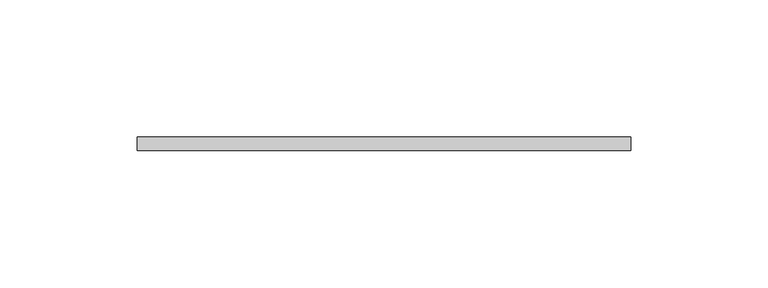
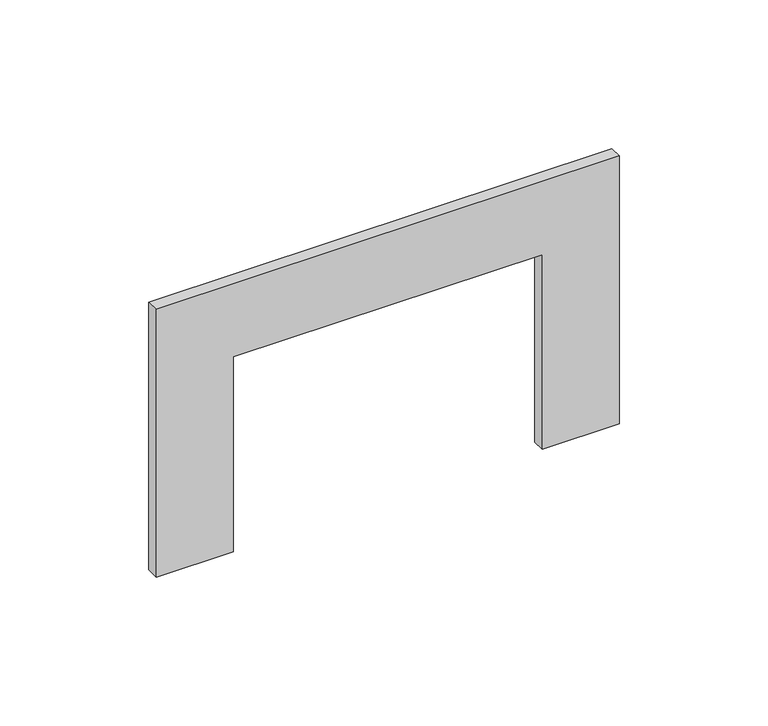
"""IFC4 building model written with IfcOpenShell, lengths in millimetres: proxy geometry, КНС_РамкаДляВводаRQM_ILC_DKC : TA-GN 60x...."""

from ifc_helpers import new_model, si_unit, frame, origin, place, context, project, spatial, polyline, outline, extrude, source, transform, mapped, element, save


def electrical_fixtures_1fa6146b(model_context):
    return source(origin(), model_context, "Body", "SweptSolid", [
        extrude(outline(polyline([(110.0, -90.0), (0.0, -90.0), (0.0, -60.0), (80.0, -60.0), (80.0, 60.0), (0.0, 60.0), (0.0, 90.0), (110.0, 90.0), (110.0, -90.0)])), frame((0.0, -5.0, 0.0), z_axis=(0.0, 1.0, 0.0), x_axis=(0.0, 0.0, 1.0)), (0.0, 0.0, 1.0), 5.0),
    ])


if __name__ == "__main__":
    model = new_model("IFC4")
    model_context = context("Model", 3, world=origin())
    ifc_project = project(units=[si_unit("LENGTHUNIT", "METRE", prefix="MILLI")], contexts=[model_context])
    site = spatial("IfcSite", under=ifc_project)
    building = spatial("IfcBuilding", under=site)
    placement = place(None, origin())
    electrical_fixtures_shape = electrical_fixtures_1fa6146b(model_context)
    element("IfcBuildingElementProxy", 1, Name="КНС_РамкаДляВводаRQM_ILC_DKC : TA-GN 60x...", ObjectType="КНС_РамкаДляВводаRQM_ILC_DKC : TA-GN 60x...", at=placement, inside=building, context=model_context, shape_type="MappedRepresentation", body=[
        mapped(electrical_fixtures_shape, transform((0.0, 0.0, 0.0), x_axis=(1.0, 0.0, 0.0), y_axis=(0.0, 1.0, 0.0), z_axis=(0.0, 0.0, 1.0))),
    ])
    save(model, "model.ifc")
